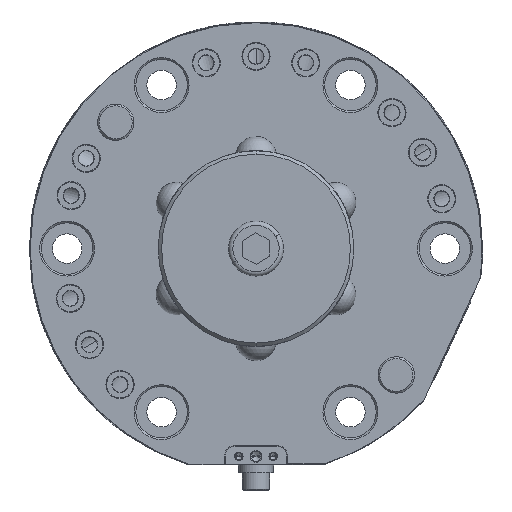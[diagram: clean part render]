
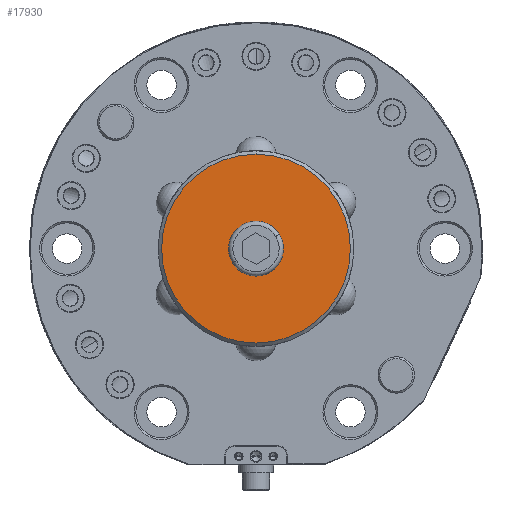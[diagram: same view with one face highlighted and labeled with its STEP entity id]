
A CAD part, front view. The second image highlights one B-rep face of the part: STEP entity #17930.
In plain terms, the highlighted planar face has unit normal (0, -1, 0).
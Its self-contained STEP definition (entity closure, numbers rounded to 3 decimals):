
#1541 = EDGE_CURVE ( 'NONE', #2535, #23311, #23444, .T. ) ;
#2019 = DIRECTION ( 'NONE',  ( 1., 0., 0. ) ) ;
#2296 = AXIS2_PLACEMENT_3D ( 'NONE', #13163, #13328, #2019 ) ;
#2520 = AXIS2_PLACEMENT_3D ( 'NONE', #5545, #24458, #11032 ) ;
#2535 = VERTEX_POINT ( 'NONE', #5181 ) ;
#3596 = CARTESIAN_POINT ( 'NONE',  ( 27.5, 36.68, 0. ) ) ;
#5181 = CARTESIAN_POINT ( 'NONE',  ( -6.806, 36.68, -4.204 ) ) ;
#5545 = CARTESIAN_POINT ( 'NONE',  ( 0., 36.68, 0. ) ) ;
#6130 = EDGE_CURVE ( 'NONE', #23311, #2535, #23407, .T. ) ;
#6491 = ORIENTED_EDGE ( 'NONE', *, *, #6130, .T. ) ;
#6665 = DIRECTION ( 'NONE',  ( 0., 0., 1. ) ) ;
#7036 = CARTESIAN_POINT ( 'NONE',  ( 0., 36.68, 27.5 ) ) ;
#7904 = FACE_BOUND ( 'NONE', #17982, .T. ) ;
#9703 = VERTEX_POINT ( 'NONE', #9973 ) ;
#9973 = CARTESIAN_POINT ( 'NONE',  ( 0., 36.68, -27.5 ) ) ;
#10526 = CARTESIAN_POINT ( 'NONE',  ( 6.806, 36.68, 4.204 ) ) ;
#11032 = DIRECTION ( 'NONE',  ( 1., 0., 0. ) ) ;
#11172 = DIRECTION ( 'NONE',  ( 1., 0., 0. ) ) ;
#12117 = FACE_OUTER_BOUND ( 'NONE', #18827, .T. ) ;
#12971 = AXIS2_PLACEMENT_3D ( 'NONE', #18081, #18151, #6665 ) ;
#13163 = CARTESIAN_POINT ( 'NONE',  ( 0., 36.68, 0. ) ) ;
#13328 = DIRECTION ( 'NONE',  ( 0., 1., 0. ) ) ;
#14598 = CARTESIAN_POINT ( 'NONE',  ( 0., 36.68, 0. ) ) ;
#14761 = ORIENTED_EDGE ( 'NONE', *, *, #20483, .T. ) ;
#15086 = PLANE ( 'NONE',  #17121 ) ;
#16531 = DIRECTION ( 'NONE',  ( 0., -1., 0. ) ) ;
#17121 = AXIS2_PLACEMENT_3D ( 'NONE', #3596, #22618, #11172 ) ;
#17930 = ADVANCED_FACE ( 'NONE', ( #12117, #7904 ), #15086, .T. ) ;
#17946 = AXIS2_PLACEMENT_3D ( 'NONE', #14598, #16531, #20372 ) ;
#17982 = EDGE_LOOP ( 'NONE', ( #20865, #6491 ) ) ;
#18081 = CARTESIAN_POINT ( 'NONE',  ( 0., 36.68, 0. ) ) ;
#18151 = DIRECTION ( 'NONE',  ( 0., -1., 0. ) ) ;
#18827 = EDGE_LOOP ( 'NONE', ( #14761, #19867 ) ) ;
#19180 = EDGE_CURVE ( 'NONE', #9703, #20552, #23122, .T. ) ;
#19867 = ORIENTED_EDGE ( 'NONE', *, *, #19180, .T. ) ;
#20372 = DIRECTION ( 'NONE',  ( 0., 0., 1. ) ) ;
#20384 = CIRCLE ( 'NONE', #17946, 27.5 ) ;
#20483 = EDGE_CURVE ( 'NONE', #20552, #9703, #20384, .T. ) ;
#20552 = VERTEX_POINT ( 'NONE', #7036 ) ;
#20865 = ORIENTED_EDGE ( 'NONE', *, *, #1541, .T. ) ;
#22618 = DIRECTION ( 'NONE',  ( 0., -1., 0. ) ) ;
#23122 = CIRCLE ( 'NONE', #12971, 27.5 ) ;
#23311 = VERTEX_POINT ( 'NONE', #10526 ) ;
#23407 = CIRCLE ( 'NONE', #2520, 8. ) ;
#23444 = CIRCLE ( 'NONE', #2296, 8. ) ;
#24458 = DIRECTION ( 'NONE',  ( 0., 1., 0. ) ) ;
